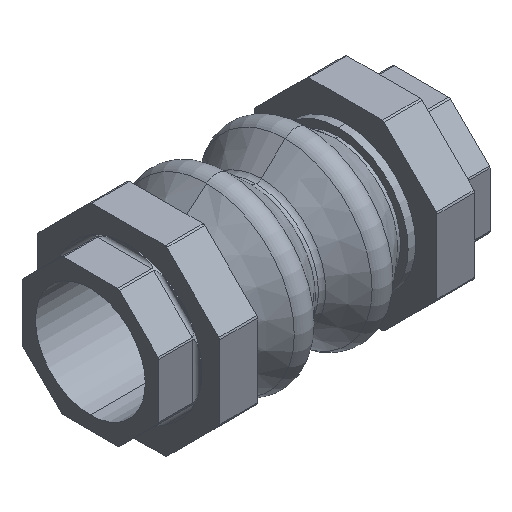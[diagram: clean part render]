
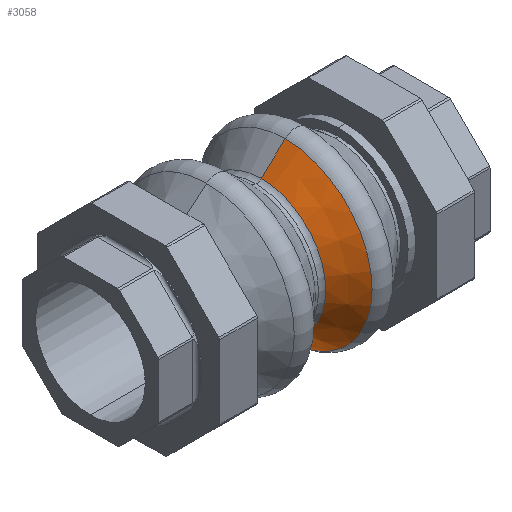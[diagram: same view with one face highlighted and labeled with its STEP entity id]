
A CAD part, isometric view. The second image highlights one B-rep face of the part: STEP entity #3058.
In plain terms, the highlighted conical face has half-angle 43.29 degrees and reference radius 57.279 mm.
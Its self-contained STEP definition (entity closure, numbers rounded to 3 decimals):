
#803 = EDGE_CURVE ( 'NONE', #849, #851, #2171, .T. ) ;
#849 = VERTEX_POINT ( 'NONE', #2264 ) ;
#851 = VERTEX_POINT ( 'NONE', #2232 ) ;
#853 = EDGE_CURVE ( 'NONE', #851, #854, #2261, .T. ) ;
#854 = VERTEX_POINT ( 'NONE', #2242 ) ;
#880 = EDGE_CURVE ( 'NONE', #849, #892, #2319, .T. ) ;
#892 = VERTEX_POINT ( 'NONE', #2315 ) ;
#2164 = DIRECTION ( 'NONE',  ( 0., 0., 1. ) ) ;
#2165 = DIRECTION ( 'NONE',  ( -1., 0., 0. ) ) ;
#2166 = CARTESIAN_POINT ( 'NONE',  ( 3.428, 0., 0. ) ) ;
#2167 = AXIS2_PLACEMENT_3D ( 'NONE', #2166, #2165, #2164 ) ;
#2171 = CIRCLE ( 'NONE', #2167, 42.476 ) ;
#2191 = EDGE_LOOP ( 'NONE', ( #2192, #3113, #3059, #2194 ) ) ;
#2192 = ORIENTED_EDGE ( 'NONE', *, *, #853, .F. ) ;
#2193 = EDGE_CURVE ( 'NONE', #892, #854, #3810, .T. ) ;
#2194 = ORIENTED_EDGE ( 'NONE', *, *, #2193, .T. ) ;
#2232 = CARTESIAN_POINT ( 'NONE',  ( 3.428, 0., 42.476 ) ) ;
#2242 = CARTESIAN_POINT ( 'NONE',  ( 19.143, 0., 57.279 ) ) ;
#2258 = DIRECTION ( 'NONE',  ( 0.728, 0., 0.686 ) ) ;
#2259 = VECTOR ( 'NONE', #2258, 1000. ) ;
#2260 = CARTESIAN_POINT ( 'NONE',  ( 19.143, 0., 57.279 ) ) ;
#2261 = LINE ( 'NONE', #2260, #2259 ) ;
#2264 = CARTESIAN_POINT ( 'NONE',  ( 3.428, 0., -42.476 ) ) ;
#2312 = DIRECTION ( 'NONE',  ( 0.728, 0., -0.686 ) ) ;
#2313 = VECTOR ( 'NONE', #2312, 1000. ) ;
#2314 = CARTESIAN_POINT ( 'NONE',  ( 19.143, 0., -57.279 ) ) ;
#2315 = CARTESIAN_POINT ( 'NONE',  ( 19.143, 0., -57.279 ) ) ;
#2319 = LINE ( 'NONE', #2314, #2313 ) ;
#3058 = ADVANCED_FACE ( 'NONE', ( #3967 ), #3993, .T. ) ;
#3059 = ORIENTED_EDGE ( 'NONE', *, *, #880, .T. ) ;
#3113 = ORIENTED_EDGE ( 'NONE', *, *, #803, .F. ) ;
#3810 = CIRCLE ( 'NONE', #3819, 57.279 ) ;
#3816 = DIRECTION ( 'NONE',  ( 0., 0., 1. ) ) ;
#3817 = DIRECTION ( 'NONE',  ( -1., 0., 0. ) ) ;
#3818 = CARTESIAN_POINT ( 'NONE',  ( 19.143, 0., 0. ) ) ;
#3819 = AXIS2_PLACEMENT_3D ( 'NONE', #3818, #3817, #3816 ) ;
#3967 = FACE_OUTER_BOUND ( 'NONE', #2191, .T. ) ;
#3974 = DIRECTION ( 'NONE',  ( 0., 0., -1. ) ) ;
#3983 = AXIS2_PLACEMENT_3D ( 'NONE', #4014, #3986, #3974 ) ;
#3986 = DIRECTION ( 'NONE',  ( 1., 0., 0. ) ) ;
#3993 = CONICAL_SURFACE ( 'NONE', #3983, 57.279, 0.756 ) ;
#4014 = CARTESIAN_POINT ( 'NONE',  ( 19.143, 0., 0. ) ) ;
